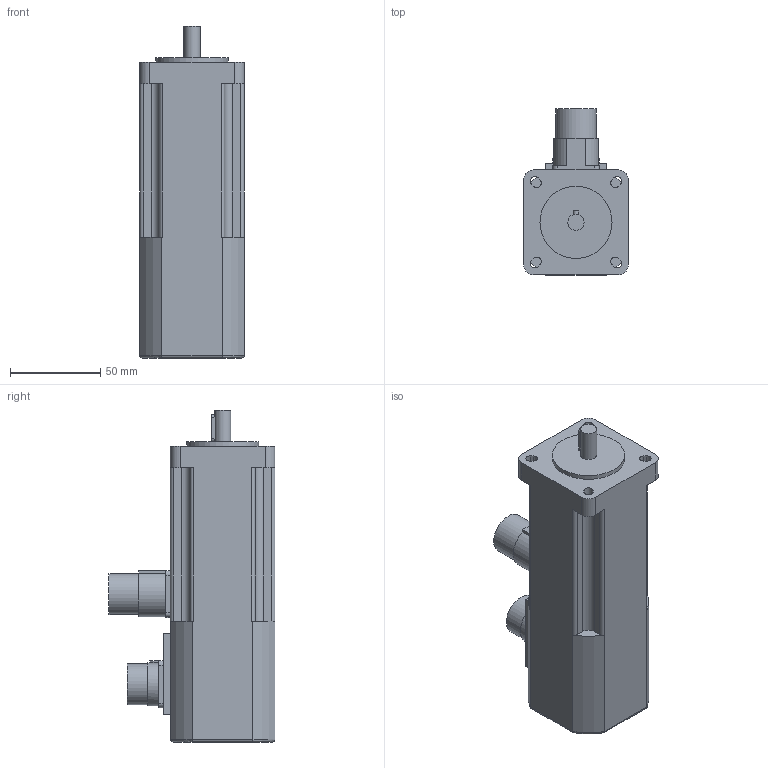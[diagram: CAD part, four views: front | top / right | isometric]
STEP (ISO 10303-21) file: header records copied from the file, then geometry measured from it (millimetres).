
FILE_DESCRIPTION(/* description */ (''),/* implementation_level */ '2;1');
FILE_NAME(/* name */ '\\Lafnas01\disegni\Archivi Lafert\3D\CAD 3D\MODELLI\Assiemi clienti\Serad\Modelli 3D Serad\B28I\Encoder\Enc Without Brake\B28D4Ixx4ARx0033.ipt.stp',/* time_stamp */ '2015-09-07T10:48:03+02:00',/* author */ ('Pastrello Ylenia'),/* organization */ (''),/* preprocessor_version */ 'ST-DEVELOPER v15.6',/* originating_system */ 'Autodesk Inventor 2015',/* authorisation */ '');
FILE_SCHEMA (('AUTOMOTIVE_DESIGN { 1 0 10303 214 3 1 1 }'));
Length unit declared in the file: millimetre
Products named in the file (1): B28D4Ixx4ARx0033
Bounding box: 58 x 92 x 184 mm (x, y, z)
Volume: 527650.9 mm3; surface area: 48616.4 mm2
Topology: 1 solids, 1 shells, 138 faces, 368 edges, 239 vertices
Faces by surface type: plane 76, cylinder 58, torus 4
Full cylindrical faces by diameter (mm): 9 x1, 22.7 x2, 24 x1, 40 x1
Entity records: 4389 total; most frequent: CARTESIAN_POINT 872, DIRECTION 741, ORIENTED_EDGE 720, EDGE_CURVE 359, AXIS2_PLACEMENT_3D 255, VERTEX_POINT 236, LINE 231, VECTOR 231
